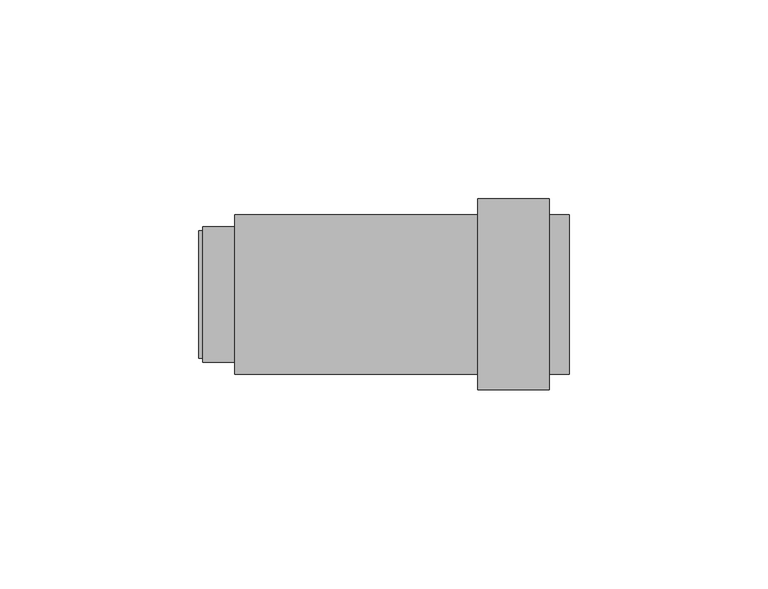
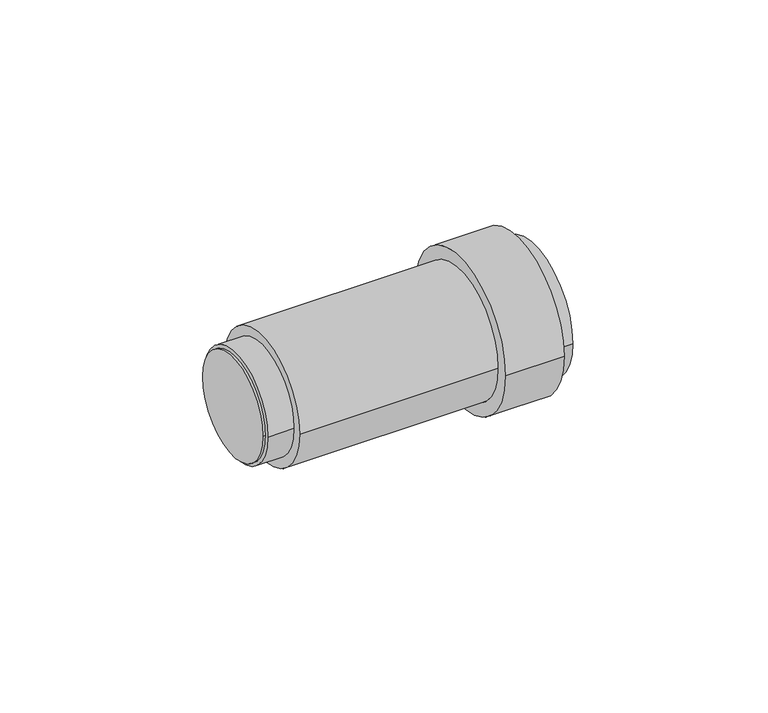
"""IFC4 building model written with IfcOpenShell, lengths in millimetres: pipe fitting geometry, Pipelife - VRD - Mufa kompensacyjna z uszczelką : Pipelife - VRD - Mufa kompensacyjna z uszczelką."""

from ifc_helpers import new_model, si_unit, point, frame, origin, origin_2d, place, context, project, spatial, polyline, circle_curve, trimmed, segment, composite_curve, outline, extrude, source, transform, mapped, element, save
from ifc_brep_helpers import plane_surface, cylinder_surface, revolved_surface, advanced_brep


def pipe_fitting_f4065a0c(model_context):
    return source(origin(), model_context, "Body", "SolidModel", [
        extrude(outline(composite_curve([segment(trimmed(circle_curve(origin_2d(), 17.0), [point((-17.0, 0.0))], [point((17.0, 0.0))], False, "CARTESIAN"), True, "CONTINUOUS"), segment(trimmed(circle_curve(origin_2d(), 17.0), [point((17.0, 0.0))], [point((-17.0, 0.0))], False, "CARTESIAN"), True, "CONTINUOUS")], self_intersect=False)), frame((1.0, 0.0, 0.0), z_axis=(1.0, 0.0, 0.0), x_axis=(0.0, 1.0, 0.0)), (0.0, 0.0, 1.0), 8.0),
        advanced_brep(
        [(9.0, -20.0, 0.0), (9.0, 20.0, 0.0), (93.0, -20.0, 0.0), (93.0, 20.0, 0.0), (93.0, -15.0, 0.0), (93.0, 15.0, 0.0), (70.0, -20.0, 0.0), (70.0, 20.0, 0.0), (88.0, 20.0, 0.0), (88.0, -20.0, 0.0), (70.0, -24.0, 0.0), (70.0, 24.0, 0.0), (88.0, -24.0, 0.0), (88.0, 24.0, 0.0), (14.0, 15.0, 0.0), (14.0, -15.0, 0.0)],
        [
            (0, 1, circle_curve(frame((9.0, 0.0, 0.0), z_axis=(-1.0, 0.0, 0.0), x_axis=(0.0, 1.0, 0.0)), 20.0)),
            (1, 0, circle_curve(frame((9.0, 0.0, 0.0), z_axis=(-1.0, 0.0, 0.0), x_axis=(0.0, 1.0, 0.0)), 20.0)),
            (2, 3, circle_curve(frame((93.0, 0.0, 0.0), z_axis=(1.0, 0.0, 0.0), x_axis=(0.0, 1.0, 0.0)), 20.0)),
            (3, 2, circle_curve(frame((93.0, 0.0, 0.0), z_axis=(1.0, 0.0, 0.0), x_axis=(0.0, 1.0, 0.0)), 20.0)),
            (4, 5, circle_curve(frame((93.0, 0.0, 0.0), z_axis=(-1.0, 0.0, 0.0), x_axis=(0.0, -1.0, 0.0)), 15.0)),
            (5, 4, circle_curve(frame((93.0, 0.0, 0.0), z_axis=(-1.0, 0.0, 0.0), x_axis=(0.0, -1.0, 0.0)), 15.0)),
            (0, 6),
            (6, 7, circle_curve(frame((70.0, 0.0, 0.0), z_axis=(-1.0, 0.0, 0.0), x_axis=(0.0, 1.0, 0.0)), 20.0)),
            (7, 1),
            (3, 8),
            (8, 9, circle_curve(frame((88.0, 0.0, 0.0), z_axis=(1.0, 0.0, 0.0), x_axis=(0.0, 1.0, 0.0)), 20.0)),
            (9, 2),
            (7, 6, circle_curve(frame((70.0, 0.0, 0.0), z_axis=(-1.0, 0.0, 0.0), x_axis=(0.0, 1.0, 0.0)), 20.0)),
            (9, 8, circle_curve(frame((88.0, 0.0, 0.0), z_axis=(1.0, 0.0, 0.0), x_axis=(0.0, 1.0, 0.0)), 20.0)),
            (10, 11, circle_curve(frame((70.0, 0.0, 0.0), z_axis=(-1.0, 0.0, 0.0), x_axis=(0.0, 1.0, 0.0)), 24.0)),
            (11, 10, circle_curve(frame((70.0, 0.0, 0.0), z_axis=(-1.0, 0.0, 0.0), x_axis=(0.0, 1.0, 0.0)), 24.0)),
            (12, 13, circle_curve(frame((88.0, 0.0, 0.0), z_axis=(1.0, 0.0, 0.0), x_axis=(0.0, 1.0, 0.0)), 24.0)),
            (13, 12, circle_curve(frame((88.0, 0.0, 0.0), z_axis=(1.0, 0.0, 0.0), x_axis=(0.0, 1.0, 0.0)), 24.0)),
            (10, 12),
            (13, 11),
            (14, 15, circle_curve(frame((14.0, 0.0, 0.0), z_axis=(1.0, 0.0, 0.0), x_axis=(0.0, -1.0, 0.0)), 15.0)),
            (15, 14, circle_curve(frame((14.0, 0.0, 0.0), z_axis=(1.0, 0.0, 0.0), x_axis=(0.0, -1.0, 0.0)), 15.0)),
            (14, 5),
            (4, 15),
        ],
        [
            plane_surface(frame((9.0, 0.0, 0.0), z_axis=(-1.0, 0.0, 0.0), x_axis=(0.0, 0.0, 1.0))),
            plane_surface(frame((93.0, 0.0, 0.0), z_axis=(1.0, 0.0, 0.0), x_axis=(0.0, 0.0, 1.0))),
            cylinder_surface(frame((9.0, 0.0, 0.0), z_axis=(-1.0, 0.0, 0.0), x_axis=(0.0, 1.0, 0.0)), 20.0),
            plane_surface(frame((70.0, 0.0, 0.0), z_axis=(-1.0, 0.0, 0.0), x_axis=(0.0, 0.0, 1.0))),
            plane_surface(frame((88.0, 0.0, 0.0), z_axis=(1.0, 0.0, 0.0), x_axis=(0.0, 0.0, 1.0))),
            cylinder_surface(frame((70.0, 0.0, 0.0), z_axis=(-1.0, 0.0, 0.0), x_axis=(0.0, 1.0, 0.0)), 24.0),
            plane_surface(frame((14.0, 0.0, 0.0), z_axis=(1.0, 0.0, 0.0), x_axis=(0.0, 0.0, 1.0))),
            revolved_surface(polyline([(93.0, -15.0, 0.0), (14.0, -15.0, 0.0)]), (93.0, 0.0, 0.0), (1.0, 0.0, 0.0)),
        ],
        [
            (0, [[1, 2]]),
            (1, [[3, 4], [5, 6]]),
            (2, [[-1, 7, 8, 9]]),
            (2, [[-4, 10, 11, 12]]),
            (2, [[-2, -9, 13, -7]]),
            (2, [[-3, -12, 14, -10]]),
            (3, [[15, 16], [-8, -13]]),
            (4, [[17, 18], [-11, -14]]),
            (5, [[-15, 19, -18, 20]]),
            (5, [[-16, -20, -17, -19]]),
            (6, [[21, 22]]),
            (7, [[-21, 23, -5, 24]]),
            (7, [[-22, -24, -6, -23]]),
        ],
    ),
        extrude(outline(composite_curve([segment(trimmed(circle_curve(origin_2d(), 16.0), [point((-16.0, 0.0))], [point((16.0, 0.0))], False, "CARTESIAN"), True, "CONTINUOUS"), segment(trimmed(circle_curve(origin_2d(), 16.0), [point((16.0, 0.0))], [point((-16.0, 0.0))], False, "CARTESIAN"), True, "CONTINUOUS")], self_intersect=False)), frame((0.0, 0.0, 0.0), z_axis=(1.0, 0.0, 0.0), x_axis=(0.0, 1.0, 0.0)), (0.0, 0.0, 1.0), 1.0),
    ])


if __name__ == "__main__":
    model = new_model("IFC4")
    model_context = context("Model", 3, world=origin())
    ifc_project = project(units=[si_unit("LENGTHUNIT", "METRE", prefix="MILLI")], contexts=[model_context])
    site = spatial("IfcSite", under=ifc_project)
    building = spatial("IfcBuilding", under=site)
    placement = place(None, origin())
    pipe_fitting_shape = pipe_fitting_f4065a0c(model_context)
    element("IfcPipeFitting", 1, ObjectType="Pipelife - VRD - Mufa kompensacyjna z uszczelką : Pipelife - VRD - Mufa kompensacyjna z uszczelką", at=placement, inside=building, context=model_context, shape_type="MappedRepresentation", body=[
        mapped(pipe_fitting_shape, transform((0.0, 0.0, 0.0), x_axis=(1.0, 0.0, 0.0), y_axis=(0.0, 1.0, 0.0), z_axis=(0.0, 0.0, 1.0))),
    ])
    save(model, "model.ifc")
